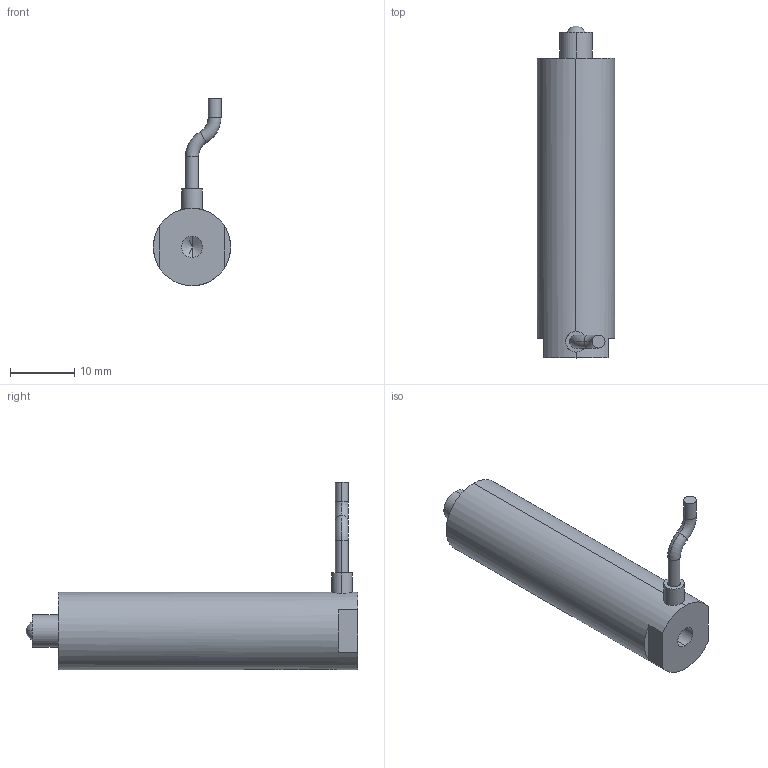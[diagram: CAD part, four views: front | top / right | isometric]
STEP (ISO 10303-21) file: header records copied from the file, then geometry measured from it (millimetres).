
FILE_DESCRIPTION (( 'STEP AP203' ), '1' );
FILE_NAME ('球头式40VS12.STEP', '2020-08-19T06:04:00', ( 'User' ), ( 'china' ), 'SwSTEP 2.0', 'SolidWorks 2016', '' );
FILE_SCHEMA (( 'CONFIG_CONTROL_DESIGN' ));
Products named in the file (1): ⑩芛宒40VS12
Bounding box: 12 x 51.5 x 29.08 mm (x, y, z)
Volume: 5332.2 mm3; surface area: 2239 mm2
Topology: 1 solids, 1 shells, 925 faces, 2484 edges, 1652 vertices
Faces by surface type: bspline 503, plane 313, cylinder 101, torus 4, sphere 2, cone 2
Entity records: 42879 total; most frequent: CARTESIAN_POINT 24135, ORIENTED_EDGE 4964, EDGE_CURVE 2482, DIRECTION 1946, B_SPLINE_CURVE_WITH_KNOTS 1654, VERTEX_POINT 1652, EDGE_LOOP 1018, ADVANCED_FACE 925
